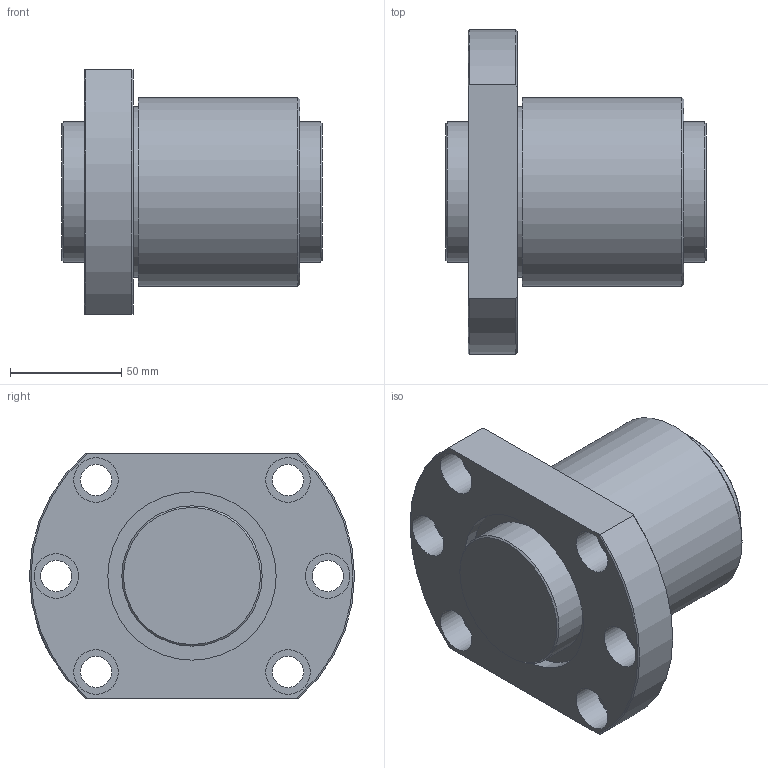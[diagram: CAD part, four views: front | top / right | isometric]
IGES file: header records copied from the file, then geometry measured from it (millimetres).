
Start section: Data from Parasolid IGES Translator 26.0.171, Copyright(c) 2006 Siemens PLM Software. All Rights Reserved.
Global section: file name: DK6310-4RRG1+117LC0_000.igs; native system: By Siemens PLM Incorporated; preprocessor: XPlus GENERIC/IGES 26.0.171; author: Noname; organization: Noname; date: 20250113.093207; units: millimetre
Bounding box: 117 x 146 x 110 mm (x, y, z)
Surface area: 109352.7 mm2 (no closed solid volume)
Topology: 0 solids, 0 shells, 46 faces, 200 edges, 178 vertices
Faces by surface type: revolution 30, extrusion 16
